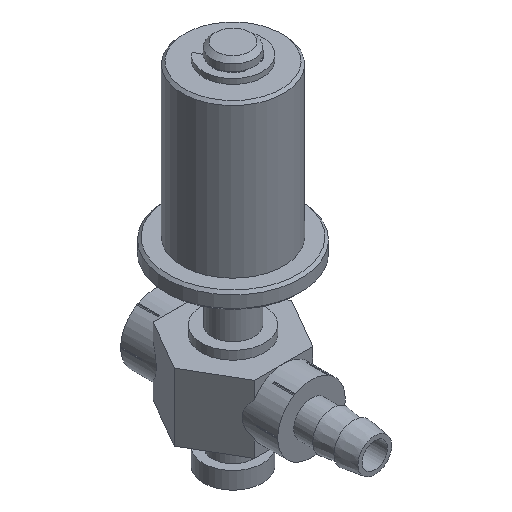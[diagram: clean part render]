
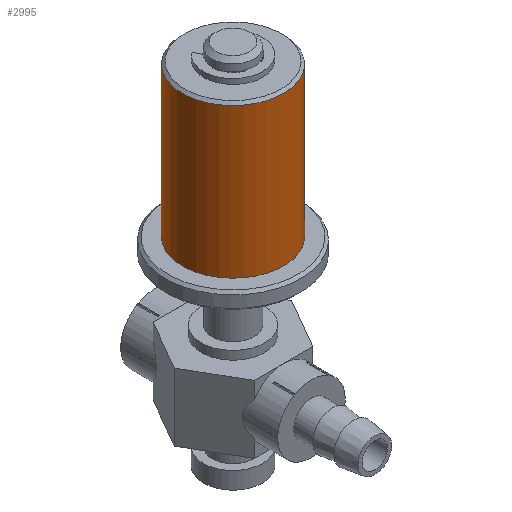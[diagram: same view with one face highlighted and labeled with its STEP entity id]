
A CAD part, isometric view. The second image highlights one B-rep face of the part: STEP entity #2995.
In plain terms, the highlighted cylindrical face has radius 6 mm (diameter 12 mm), a full revolution.
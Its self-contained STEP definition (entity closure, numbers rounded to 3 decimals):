
#81 = ORIENTED_EDGE ( 'NONE', *, *, #1753, .F. ) ;
#109 = EDGE_CURVE ( 'NONE', #1340, #1340, #1819, .T. ) ;
#255 = AXIS2_PLACEMENT_3D ( 'NONE', #1541, #2724, #1788 ) ;
#306 = CARTESIAN_POINT ( 'NONE',  ( -0.669, -5.963, 23.5 ) ) ;
#679 = ORIENTED_EDGE ( 'NONE', *, *, #109, .T. ) ;
#854 = EDGE_LOOP ( 'NONE', ( #679 ) ) ;
#916 = AXIS2_PLACEMENT_3D ( 'NONE', #2157, #3257, #2223 ) ;
#1001 = FACE_OUTER_BOUND ( 'NONE', #854, .T. ) ;
#1015 = CARTESIAN_POINT ( 'NONE',  ( 0., 0., 23.5 ) ) ;
#1021 = DIRECTION ( 'NONE',  ( 0., 0., 1. ) ) ;
#1026 = DIRECTION ( 'NONE',  ( -0.112, -0.994, 0. ) ) ;
#1040 = EDGE_LOOP ( 'NONE', ( #81 ) ) ;
#1340 = VERTEX_POINT ( 'NONE', #306 ) ;
#1541 = CARTESIAN_POINT ( 'NONE',  ( 0., 0., 41.5 ) ) ;
#1608 = FACE_OUTER_BOUND ( 'NONE', #1040, .T. ) ;
#1753 = EDGE_CURVE ( 'NONE', #2338, #2338, #1938, .T. ) ;
#1788 = DIRECTION ( 'NONE',  ( -0.112, -0.994, 0. ) ) ;
#1819 = CIRCLE ( 'NONE', #1967, 6. ) ;
#1866 = CARTESIAN_POINT ( 'NONE',  ( -0.669, -5.963, 41.2 ) ) ;
#1938 = CIRCLE ( 'NONE', #916, 6. ) ;
#1967 = AXIS2_PLACEMENT_3D ( 'NONE', #1015, #1021, #1026 ) ;
#2157 = CARTESIAN_POINT ( 'NONE',  ( 0., 0., 41.2 ) ) ;
#2198 = CYLINDRICAL_SURFACE ( 'NONE', #255, 6. ) ;
#2223 = DIRECTION ( 'NONE',  ( -0.112, -0.994, 0. ) ) ;
#2338 = VERTEX_POINT ( 'NONE', #1866 ) ;
#2724 = DIRECTION ( 'NONE',  ( 0., 0., 1. ) ) ;
#2995 = ADVANCED_FACE ( 'NONE', ( #1001, #1608 ), #2198, .T. ) ;
#3257 = DIRECTION ( 'NONE',  ( 0., 0., 1. ) ) ;
